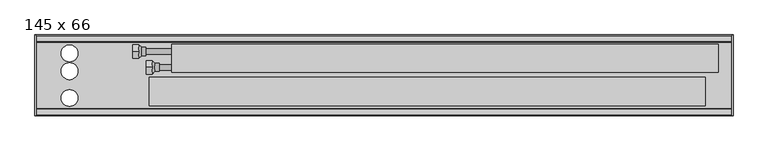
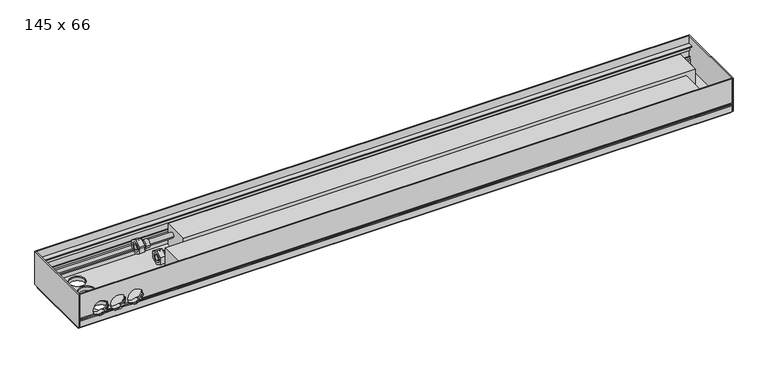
"""IFC4 building model written with IfcOpenShell, lengths in millimetres: proxy geometry, Mohlenhof_Внутрипольный конвектор_QSKM : 145 x 66."""

from ifc_helpers import new_model, si_unit, point, frame, frame_2d, origin, place, context, project, spatial, polyline, circle_curve, ellipse_curve, trimmed, segment, composite_curve, outline, extrude, source, transform, mapped, element, save
from ifc_brep_helpers import plane_surface, cylinder_surface, revolved_surface, advanced_brep


def proxy_145_x_66_0b6a45b0(model_context):
    return source(origin(), model_context, "Body", "SolidModel", [
        advanced_brep(
        [(-415.0, -158.0, -47.5), (-415.0, -146.0, -47.5), (-415.0, -170.0, -47.5), (-402.5, -165.5, -47.5), (-402.5, -150.5, -47.5), (-402.5, -158.0, -47.5), (-410.0, -165.5, -47.5), (-410.0, -150.5, -47.5)],
        [
            (0, 1),
            (1, 2, circle_curve(frame((-415.0, -158.0, -47.5), z_axis=(-1.0, 0.0, 0.0), x_axis=(0.0, 1.0, 0.0)), 12.0)),
            (2, 0),
            (2, 1, circle_curve(frame((-415.0, -158.0, -47.5), z_axis=(-1.0, 0.0, 0.0), x_axis=(0.0, 1.0, 0.0)), 12.0)),
            (3, 4, circle_curve(frame((-402.5, -158.0, -47.5), z_axis=(1.0, 0.0, 0.0), x_axis=(0.0, 1.0, 0.0)), 7.5)),
            (4, 5),
            (5, 3),
            (4, 3, circle_curve(frame((-402.5, -158.0, -47.5), z_axis=(1.0, 0.0, 0.0), x_axis=(0.0, 1.0, 0.0)), 7.5)),
            (6, 7, circle_curve(frame((-410.0, -158.0, -47.5), z_axis=(1.0, 0.0, 0.0), x_axis=(0.0, 1.0, 0.0)), 7.5)),
            (7, 4),
            (3, 6),
            (7, 6, circle_curve(frame((-410.0, -158.0, -47.5), z_axis=(1.0, 0.0, 0.0), x_axis=(0.0, 1.0, 0.0)), 7.5)),
            (1, 7),
            (6, 2),
        ],
        [
            plane_surface(frame((-415.0, -158.0, -47.5), z_axis=(-1.0, 0.0, 0.0), x_axis=(0.0, 1.0, 0.0))),
            plane_surface(frame((-402.5, -158.0, -47.5), z_axis=(1.0, 0.0, 0.0), x_axis=(0.0, 1.0, 0.0))),
            cylinder_surface(frame((-415.0, -158.0, -47.5), z_axis=(-1.0, 0.0, 0.0), x_axis=(0.0, 1.0, 0.0)), 7.5),
            revolved_surface(polyline([(-410.0, -150.5, -47.5), (-415.0, -146.0, -47.5)]), (-415.0, -158.0, -47.5), (-1.0, 0.0, 0.0)),
        ],
        [
            (0, [[1, 2, 3]]),
            (0, [[-3, 4, -1]]),
            (1, [[5, 6, 7]]),
            (1, [[8, -7, -6]]),
            (2, [[9, 10, -5, 11]]),
            (2, [[12, -11, -8, -10]]),
            (3, [[-2, 13, -9, 14]]),
            (3, [[-4, -14, -12, -13]]),
        ],
    ),
        extrude(outline(polyline([(-158.0, -33.6435935), (-146.0, -40.5717968), (-146.0, -54.4282032), (-158.0, -61.3564065), (-170.0, -54.4282032), (-170.0, -40.5717968), (-158.0, -33.6435935)]), holes=[composite_curve([segment(trimmed(circle_curve(frame_2d((-158.0, -47.5)), 8.5), [point((-149.5, -47.5))], [point((-166.5, -47.5))], True, "CARTESIAN"), True, "CONTINUOUS"), segment(trimmed(circle_curve(frame_2d((-158.0, -47.5)), 8.5), [point((-166.5, -47.5))], [point((-149.5, -47.5))], True, "CARTESIAN"), True, "CONTINUOUS")], self_intersect=False)]), frame((-426.0, 0.0, 0.0), z_axis=(1.0, 0.0, 0.0), x_axis=(0.0, 1.0, 0.0)), (0.0, 0.0, 1.0), 11.0),
        advanced_brep(
        [(-439.0, -130.0, -34.5), (-439.0, -118.0, -34.5), (-439.0, -142.0, -34.5), (-426.5, -137.5, -34.5), (-426.5, -122.5, -34.5), (-426.5, -130.0, -34.5), (-434.0, -137.5, -34.5), (-434.0, -122.5, -34.5)],
        [
            (0, 1),
            (1, 2, circle_curve(frame((-439.0, -130.0, -34.5), z_axis=(-1.0, 0.0, 0.0), x_axis=(0.0, 1.0, 0.0)), 12.0)),
            (2, 0),
            (2, 1, circle_curve(frame((-439.0, -130.0, -34.5), z_axis=(-1.0, 0.0, 0.0), x_axis=(0.0, 1.0, 0.0)), 12.0)),
            (3, 4, circle_curve(frame((-426.5, -130.0, -34.5), z_axis=(1.0, 0.0, 0.0), x_axis=(0.0, 1.0, 0.0)), 7.5)),
            (4, 5),
            (5, 3),
            (4, 3, circle_curve(frame((-426.5, -130.0, -34.5), z_axis=(1.0, 0.0, 0.0), x_axis=(0.0, 1.0, 0.0)), 7.5)),
            (6, 7, circle_curve(frame((-434.0, -130.0, -34.5), z_axis=(1.0, 0.0, 0.0), x_axis=(0.0, 1.0, 0.0)), 7.5)),
            (7, 4),
            (3, 6),
            (7, 6, circle_curve(frame((-434.0, -130.0, -34.5), z_axis=(1.0, 0.0, 0.0), x_axis=(0.0, 1.0, 0.0)), 7.5)),
            (1, 7),
            (6, 2),
        ],
        [
            plane_surface(frame((-439.0, -130.0, -34.5), z_axis=(-1.0, 0.0, 0.0), x_axis=(0.0, 1.0, 0.0))),
            plane_surface(frame((-426.5, -130.0, -34.5), z_axis=(1.0, 0.0, 0.0), x_axis=(0.0, 1.0, 0.0))),
            cylinder_surface(frame((-439.0, -130.0, -34.5), z_axis=(-1.0, 0.0, 0.0), x_axis=(0.0, 1.0, 0.0)), 7.5),
            revolved_surface(polyline([(-434.0, -122.5, -34.5), (-439.0, -118.0, -34.5)]), (-439.0, -130.0, -34.5), (-1.0, 0.0, 0.0)),
        ],
        [
            (0, [[1, 2, 3]]),
            (0, [[-3, 4, -1]]),
            (1, [[5, 6, 7]]),
            (1, [[8, -7, -6]]),
            (2, [[9, 10, -5, 11]]),
            (2, [[12, -11, -8, -10]]),
            (3, [[-2, 13, -9, 14]]),
            (3, [[-4, -14, -12, -13]]),
        ],
    ),
        extrude(outline(polyline([(-130.0, -20.6435935), (-118.0, -27.5717968), (-118.0, -41.4282032), (-130.0, -48.3564065), (-142.0, -41.4282032), (-142.0, -27.5717968), (-130.0, -20.6435935)]), holes=[composite_curve([segment(trimmed(circle_curve(frame_2d((-130.0, -34.5)), 8.5), [point((-121.5, -34.5))], [point((-138.5, -34.5))], True, "CARTESIAN"), True, "CONTINUOUS"), segment(trimmed(circle_curve(frame_2d((-130.0, -34.5)), 8.5), [point((-138.5, -34.5))], [point((-121.5, -34.5))], True, "CARTESIAN"), True, "CONTINUOUS")], self_intersect=False)]), frame((-450.0, 0.0, 0.0), z_axis=(1.0, 0.0, 0.0), x_axis=(0.0, 1.0, 0.0)), (0.0, 0.0, 1.0), 11.0),
        extrude(outline(composite_curve([segment(trimmed(circle_curve(frame_2d((-600.0, -223.5)), 4.5), [point((-604.5, -223.5))], [point((-595.5, -223.5))], False, "CARTESIAN"), True, "CONTINUOUS"), segment(trimmed(circle_curve(frame_2d((-600.0, -223.5)), 4.5), [point((-595.5, -223.5))], [point((-604.5, -223.5))], False, "CARTESIAN"), True, "CONTINUOUS")], self_intersect=False)), frame((0.0, 0.0, -79.0), z_axis=(0.0, 0.0, 1.0), x_axis=(1.0, 0.0, 0.0)), (0.0, 0.0, 1.0), 7.0),
        extrude(outline(composite_curve([segment(trimmed(circle_curve(frame_2d((-600.0, -223.5)), 4.0), [point((-604.0, -223.5))], [point((-596.0, -223.5))], False, "CARTESIAN"), True, "CONTINUOUS"), segment(trimmed(circle_curve(frame_2d((-600.0, -223.5)), 4.0), [point((-596.0, -223.5))], [point((-604.0, -223.5))], False, "CARTESIAN"), True, "CONTINUOUS")], self_intersect=False)), frame((0.0, 0.0, -72.0), z_axis=(0.0, 0.0, 1.0), x_axis=(1.0, 0.0, 0.0)), (0.0, 0.0, 1.0), 1.5),
        extrude(outline(composite_curve([segment(trimmed(circle_curve(frame_2d((-600.0, -121.5)), 4.5), [point((-604.5, -121.5))], [point((-595.5, -121.5))], False, "CARTESIAN"), True, "CONTINUOUS"), segment(trimmed(circle_curve(frame_2d((-600.0, -121.5)), 4.5), [point((-595.5, -121.5))], [point((-604.5, -121.5))], False, "CARTESIAN"), True, "CONTINUOUS")], self_intersect=False)), frame((0.0, 0.0, -79.0), z_axis=(0.0, 0.0, 1.0), x_axis=(1.0, 0.0, 0.0)), (0.0, 0.0, 1.0), 7.0),
        extrude(outline(composite_curve([segment(trimmed(circle_curve(frame_2d((-600.0, -121.5)), 4.0), [point((-604.0, -121.5))], [point((-596.0, -121.5))], False, "CARTESIAN"), True, "CONTINUOUS"), segment(trimmed(circle_curve(frame_2d((-600.0, -121.5)), 4.0), [point((-596.0, -121.5))], [point((-604.0, -121.5))], False, "CARTESIAN"), True, "CONTINUOUS")], self_intersect=False)), frame((0.0, 0.0, -72.0), z_axis=(0.0, 0.0, 1.0), x_axis=(1.0, 0.0, 0.0)), (0.0, 0.0, 1.0), 1.5),
        extrude(outline(composite_curve([segment(trimmed(circle_curve(frame_2d((600.0, -223.5)), 4.5), [point((595.5, -223.5))], [point((604.5, -223.5))], False, "CARTESIAN"), True, "CONTINUOUS"), segment(trimmed(circle_curve(frame_2d((600.0, -223.5)), 4.5), [point((604.5, -223.5))], [point((595.5, -223.5))], False, "CARTESIAN"), True, "CONTINUOUS")], self_intersect=False)), frame((0.0, 0.0, -79.0), z_axis=(0.0, 0.0, 1.0), x_axis=(1.0, 0.0, 0.0)), (0.0, 0.0, 1.0), 7.0),
        extrude(outline(composite_curve([segment(trimmed(circle_curve(frame_2d((600.0, -223.5)), 4.0), [point((596.0, -223.5))], [point((604.0, -223.5))], False, "CARTESIAN"), True, "CONTINUOUS"), segment(trimmed(circle_curve(frame_2d((600.0, -223.5)), 4.0), [point((604.0, -223.5))], [point((596.0, -223.5))], False, "CARTESIAN"), True, "CONTINUOUS")], self_intersect=False)), frame((0.0, 0.0, -72.0), z_axis=(0.0, 0.0, 1.0), x_axis=(1.0, 0.0, 0.0)), (0.0, 0.0, 1.0), 1.5),
        extrude(outline(composite_curve([segment(trimmed(circle_curve(frame_2d((600.0, -121.5)), 4.5), [point((595.5, -121.5))], [point((604.5, -121.5))], False, "CARTESIAN"), True, "CONTINUOUS"), segment(trimmed(circle_curve(frame_2d((600.0, -121.5)), 4.5), [point((604.5, -121.5))], [point((595.5, -121.5))], False, "CARTESIAN"), True, "CONTINUOUS")], self_intersect=False)), frame((0.0, 0.0, -79.0), z_axis=(0.0, 0.0, 1.0), x_axis=(1.0, 0.0, 0.0)), (0.0, 0.0, 1.0), 7.0),
        extrude(outline(composite_curve([segment(trimmed(circle_curve(frame_2d((600.0, -121.5)), 4.0), [point((596.0, -121.5))], [point((604.0, -121.5))], False, "CARTESIAN"), True, "CONTINUOUS"), segment(trimmed(circle_curve(frame_2d((600.0, -121.5)), 4.0), [point((604.0, -121.5))], [point((596.0, -121.5))], False, "CARTESIAN"), True, "CONTINUOUS")], self_intersect=False)), frame((0.0, 0.0, -72.0), z_axis=(0.0, 0.0, 1.0), x_axis=(1.0, 0.0, 0.0)), (0.0, 0.0, 1.0), 1.5),
        extrude(outline(polyline([(575.0, -175.87), (575.0, -227.18), (-420.0, -227.18), (-420.0, -175.87), (575.0, -175.87)])), frame((0.0, 0.0, -62.5), z_axis=(0.0, 0.0, 1.0), x_axis=(1.0, 0.0, 0.0)), (0.0, 0.0, 1.0), 43.62),
        extrude(outline(composite_curve([segment(trimmed(circle_curve(frame_2d((-158.0, -47.5)), 5.0), [point((-163.0, -47.5))], [point((-153.0, -47.5))], False, "CARTESIAN"), True, "CONTINUOUS"), segment(trimmed(circle_curve(frame_2d((-158.0, -47.5)), 5.0), [point((-153.0, -47.5))], [point((-163.0, -47.5))], False, "CARTESIAN"), True, "CONTINUOUS")], self_intersect=False)), frame((-426.0, 0.0, 0.0), z_axis=(1.0, 0.0, 0.0), x_axis=(0.0, 1.0, 0.0)), (0.0, 0.0, 1.0), 46.0),
        extrude(outline(composite_curve([segment(trimmed(circle_curve(frame_2d((-130.0, -34.5)), 5.0), [point((-135.0, -34.5))], [point((-125.0, -34.5))], False, "CARTESIAN"), True, "CONTINUOUS"), segment(trimmed(circle_curve(frame_2d((-130.0, -34.5)), 5.0), [point((-125.0, -34.5))], [point((-135.0, -34.5))], False, "CARTESIAN"), True, "CONTINUOUS")], self_intersect=False)), frame((-450.0, 0.0, 0.0), z_axis=(1.0, 0.0, 0.0), x_axis=(0.0, 1.0, 0.0)), (0.0, 0.0, 1.0), 70.0),
        advanced_brep(
        [(623.0, -245.0, -48.5473602), (623.0, -243.5, -49.2468216), (623.0, -242.5, -49.2468216), (623.0, -242.5, -46.0008038), (623.0, -240.0, -46.0008038), (623.0, -240.0, -56.5008038), (623.0, -242.5, -56.5008038), (623.0, -242.5, -53.2468216), (623.0, -243.5, -53.2468216), (623.0, -245.0, -53.9462831), (623.0, -245.0, -66.5), (623.0, -241.0, -66.5), (623.0, -241.0, -65.2), (623.0, -243.0, -65.2), (623.0, -243.0, -62.5), (623.0, -232.0, -62.5), (623.0, -232.0, -54.9172677), (623.0, -233.4172677, -53.5), (623.0, -237.0, -53.5), (623.0, -237.0, -45.91), (623.0, -239.0, -43.91), (623.0, -239.0, -39.5), (623.0, -240.0, -39.5), (623.0, -240.0, -43.5), (623.0, -242.4956439, -43.5), (623.0, -242.4956439, -23.0), (623.0, -240.0, -23.0), (623.0, -240.0, -27.0), (623.0, -239.0, -27.0), (623.0, -239.0, -17.0), (623.0, -233.3956439, -17.0), (623.0, -233.3956439, -15.0), (623.0, -243.4, -15.0), (623.0, -243.4, 0.0), (623.0, -245.0, 0.0), (-623.0, -245.0, -48.5473602), (-623.0, -245.0, 0.0), (-623.0, -243.4, 0.0), (-623.0, -243.4, -15.0), (-623.0, -233.3956439, -15.0), (-623.0, -233.3956439, -17.0), (-623.0, -239.0, -17.0), (-623.0, -239.0, -27.0), (-623.0, -240.0, -27.0), (-623.0, -240.0, -23.0), (-623.0, -242.4956439, -23.0), (-623.0, -242.4956439, -43.5), (-623.0, -240.0, -43.5), (-623.0, -240.0, -39.5), (-623.0, -239.0, -39.5), (-623.0, -239.0, -43.91), (-623.0, -237.0, -45.91), (-623.0, -237.0, -53.5), (-623.0, -233.4172677, -53.5), (-623.0, -232.0, -54.9172677), (-623.0, -232.0, -62.5), (-623.0, -243.0, -62.5), (-623.0, -243.0, -65.2), (-623.0, -241.0, -65.2), (-623.0, -241.0, -66.5), (-623.0, -245.0, -66.5), (-623.0, -245.0, -53.9462831), (-623.0, -243.5, -53.2468216), (-623.0, -242.5, -53.2468216), (-623.0, -242.5, -56.5008038), (-623.0, -240.0, -56.5008038), (-623.0, -240.0, -46.0008038), (-623.0, -242.5, -46.0008038), (-623.0, -242.5, -49.2468216), (-623.0, -243.5, -49.2468216), (-503.7585985, -245.0, -48.5473602), (-504.155283, -243.5, -49.2468216), (-595.844717, -243.5, -49.2468216), (-596.2414015, -245.0, -48.5473602), (-563.2414015, -245.0, -48.5473602), (-569.7585985, -245.0, -48.5473602), (-570.155283, -243.5, -49.2468216), (-562.844717, -243.5, -49.2468216), (-530.2414015, -245.0, -48.5473602), (-536.7585985, -245.0, -48.5473602), (-537.155283, -243.5, -49.2468216), (-529.844717, -243.5, -49.2468216), (-504.155283, -242.5, -49.2468216), (-595.844717, -242.5, -49.2468216), (-570.155283, -242.5, -49.2468216), (-562.844717, -242.5, -49.2468216), (-537.155283, -242.5, -49.2468216), (-529.844717, -242.5, -49.2468216), (-502.6911648, -242.5, -46.0008038), (-597.3088352, -242.5, -46.0008038), (-568.6911648, -242.5, -46.0008038), (-564.3088352, -242.5, -46.0008038), (-535.6911648, -242.5, -46.0008038), (-531.3088352, -242.5, -46.0008038), (-502.6911648, -240.0, -46.0008038), (-597.3088352, -240.0, -46.0008038), (-568.6911648, -240.0, -46.0008038), (-564.3088352, -240.0, -46.0008038), (-535.6911648, -240.0, -46.0008038), (-531.3088352, -240.0, -46.0008038), (-592.328032, -242.5, -53.2468216), (-573.671968, -242.5, -53.2468216), (-559.328032, -242.5, -53.2468216), (-540.671968, -242.5, -53.2468216), (-526.328032, -242.5, -53.2468216), (-507.671968, -242.5, -53.2468216), (-507.671968, -243.5, -53.2468216), (-592.328032, -243.5, -53.2468216), (-573.671968, -243.5, -53.2468216), (-559.328032, -243.5, -53.2468216), (-540.671968, -243.5, -53.2468216), (-526.328032, -243.5, -53.2468216), (-508.6280208, -245.0, -53.9462831), (-591.3719792, -245.0, -53.9462831), (-574.6280208, -245.0, -53.9462831), (-558.3719792, -245.0, -53.9462831), (-541.6280208, -245.0, -53.9462831), (-525.3719792, -245.0, -53.9462831), (-589.7064841, -232.0, -54.9172677), (-576.2935159, -232.0, -54.9172677), (-556.7064841, -232.0, -54.9172677), (-543.2935159, -232.0, -54.9172677), (-523.7064841, -232.0, -54.9172677), (-510.2935159, -232.0, -54.9172677), (-508.0, -233.4172677, -53.5), (-592.0, -233.4172677, -53.5), (-574.0, -233.4172677, -53.5), (-559.0, -233.4172677, -53.5), (-541.0, -233.4172677, -53.5), (-526.0, -233.4172677, -53.5), (-508.0, -237.0, -53.5), (-592.0, -237.0, -53.5), (-574.0, -237.0, -53.5), (-559.0, -237.0, -53.5), (-541.0, -237.0, -53.5), (-526.0, -237.0, -53.5), (-502.6629187, -237.0, -45.91), (-597.3370813, -237.0, -45.91), (-568.6629187, -237.0, -45.91), (-564.3370813, -237.0, -45.91), (-535.6629187, -237.0, -45.91), (-531.3370813, -237.0, -45.91), (-502.1948691, -239.0, -43.91), (-597.8051309, -239.0, -43.91), (-568.1948691, -239.0, -43.91), (-564.8051309, -239.0, -43.91), (-535.1948691, -239.0, -43.91), (-531.8051309, -239.0, -43.91), (-502.0, -239.0, -41.5), (-502.1339313, -239.0, -39.5), (-597.8660687, -239.0, -39.5), (-598.0, -239.0, -41.5), (-568.0, -239.0, -41.5), (-568.1339313, -239.0, -39.5), (-564.8660687, -239.0, -39.5), (-565.0, -239.0, -41.5), (-535.0, -239.0, -41.5), (-535.1339313, -239.0, -39.5), (-531.8660687, -239.0, -39.5), (-532.0, -239.0, -41.5), (-502.1339313, -240.0, -39.5), (-597.8660687, -240.0, -39.5), (-568.1339313, -240.0, -39.5), (-564.8660687, -240.0, -39.5), (-535.1339313, -240.0, -39.5), (-531.8660687, -240.0, -39.5), (-502.0, -240.0, -41.5), (-502.1339313, -240.0, -43.5), (-597.8660687, -240.0, -43.5), (-598.0, -240.0, -41.5), (-568.0, -240.0, -41.5), (-568.1339313, -240.0, -43.5), (-564.8660687, -240.0, -43.5), (-565.0, -240.0, -41.5), (-535.0, -240.0, -41.5), (-535.1339313, -240.0, -43.5), (-531.8660687, -240.0, -43.5), (-532.0, -240.0, -41.5), (-502.1339313, -242.4956439, -43.5), (-597.8660687, -242.4956439, -43.5), (-568.1339313, -242.4956439, -43.5), (-564.8660687, -242.4956439, -43.5), (-535.1339313, -242.4956439, -43.5), (-531.8660687, -242.4956439, -43.5), (-502.0, -242.4956439, -41.5), (-532.0, -242.4956439, -41.5), (-535.0, -242.4956439, -41.5), (-565.0, -242.4956439, -41.5), (-568.0, -242.4956439, -41.5), (-598.0, -242.4956439, -41.5), (-586.8405729, -240.0, -27.0), (-579.1594271, -240.0, -27.0), (-553.8405729, -240.0, -27.0), (-546.1594271, -240.0, -27.0), (-520.8405729, -240.0, -27.0), (-513.1594271, -240.0, -27.0), (-513.1594271, -239.0, -27.0), (-586.8405729, -239.0, -27.0), (-579.1594271, -239.0, -27.0), (-553.8405729, -239.0, -27.0), (-546.1594271, -239.0, -27.0), (-520.8405729, -239.0, -27.0), (-598.0, -245.0, -41.5), (-568.0, -245.0, -41.5), (-565.0, -245.0, -41.5), (-535.0, -245.0, -41.5), (-532.0, -245.0, -41.5), (-502.0, -245.0, -41.5)],
        [
            (0, 1),
            (1, 2),
            (2, 3),
            (3, 4),
            (4, 5),
            (5, 6),
            (6, 7),
            (7, 8),
            (8, 9),
            (9, 10),
            (10, 11),
            (11, 12),
            (12, 13),
            (13, 14),
            (14, 15),
            (15, 16),
            (16, 17),
            (17, 18),
            (18, 19),
            (19, 20),
            (20, 21),
            (21, 22),
            (22, 23),
            (23, 24),
            (24, 25),
            (25, 26),
            (26, 27),
            (27, 28),
            (28, 29),
            (29, 30),
            (30, 31),
            (31, 32),
            (32, 33),
            (33, 34),
            (34, 0),
            (35, 36),
            (36, 37),
            (37, 38),
            (38, 39),
            (39, 40),
            (40, 41),
            (41, 42),
            (42, 43),
            (43, 44),
            (44, 45),
            (45, 46),
            (46, 47),
            (47, 48),
            (48, 49),
            (49, 50),
            (50, 51),
            (51, 52),
            (52, 53),
            (53, 54),
            (54, 55),
            (55, 56),
            (56, 57),
            (57, 58),
            (58, 59),
            (59, 60),
            (60, 61),
            (61, 62),
            (62, 63),
            (63, 64),
            (64, 65),
            (65, 66),
            (66, 67),
            (67, 68),
            (68, 69),
            (69, 35),
            (0, 70),
            (70, 71, ellipse_curve(frame((-517.0, -260.1131126, -41.5), z_axis=(0.0, 0.42261826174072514, 0.9063077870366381), x_axis=(0.0, -0.9063077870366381, 0.42261826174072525)), 35.4930237, 15.0)),
            (71, 1),
            (69, 72),
            (72, 73, ellipse_curve(frame((-583.0, -260.1131126, -41.5), z_axis=(0.0, 0.42261826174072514, 0.9063077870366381), x_axis=(0.0, -0.9063077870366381, 0.42261826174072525)), 35.4930237, 15.0)),
            (73, 35),
            (74, 75),
            (75, 76, ellipse_curve(frame((-583.0, -260.1131126, -41.5), z_axis=(0.0, 0.42261826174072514, 0.9063077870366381), x_axis=(0.0, -0.9063077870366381, 0.42261826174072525)), 35.4930237, 15.0)),
            (76, 77),
            (77, 74, ellipse_curve(frame((-550.0, -260.1131126, -41.5), z_axis=(0.0, 0.42261826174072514, 0.9063077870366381), x_axis=(0.0, -0.9063077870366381, 0.42261826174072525)), 35.4930237, 15.0)),
            (78, 79),
            (79, 80, ellipse_curve(frame((-550.0, -260.1131126, -41.5), z_axis=(0.0, 0.42261826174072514, 0.9063077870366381), x_axis=(0.0, -0.9063077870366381, 0.42261826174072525)), 35.4930237, 15.0)),
            (80, 81),
            (81, 78, ellipse_curve(frame((-517.0, -260.1131126, -41.5), z_axis=(0.0, 0.42261826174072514, 0.9063077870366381), x_axis=(0.0, -0.9063077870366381, 0.42261826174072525)), 35.4930237, 15.0)),
            (71, 82),
            (82, 2),
            (68, 83),
            (83, 72),
            (76, 84),
            (84, 85),
            (85, 77),
            (80, 86),
            (86, 87),
            (87, 81),
            (82, 88, circle_curve(frame((-517.0, -242.5, -41.5), z_axis=(0.0, -1.0, 0.0), x_axis=(1.0, 0.0, 0.0)), 15.0)),
            (88, 3),
            (67, 89),
            (89, 83, circle_curve(frame((-583.0, -242.5, -41.5), z_axis=(0.0, -1.0, 0.0), x_axis=(1.0, 0.0, 0.0)), 15.0)),
            (84, 90, circle_curve(frame((-583.0, -242.5, -41.5), z_axis=(0.0, -1.0, 0.0), x_axis=(1.0, 0.0, 0.0)), 15.0)),
            (90, 91),
            (91, 85, circle_curve(frame((-550.0, -242.5, -41.5), z_axis=(0.0, -1.0, 0.0), x_axis=(1.0, 0.0, 0.0)), 15.0)),
            (86, 92, circle_curve(frame((-550.0, -242.5, -41.5), z_axis=(0.0, -1.0, 0.0), x_axis=(1.0, 0.0, 0.0)), 15.0)),
            (92, 93),
            (93, 87, circle_curve(frame((-517.0, -242.5, -41.5), z_axis=(0.0, -1.0, 0.0), x_axis=(1.0, 0.0, 0.0)), 15.0)),
            (88, 94),
            (94, 4),
            (66, 95),
            (95, 89),
            (90, 96),
            (96, 97),
            (97, 91),
            (92, 98),
            (98, 99),
            (99, 93),
            (94, 99, circle_curve(frame((-517.0, -240.0, -41.5), z_axis=(0.0, 1.0, 0.0), x_axis=(1.0, 0.0, 0.0)), 15.0)),
            (98, 97, circle_curve(frame((-550.0, -240.0, -41.5), z_axis=(0.0, 1.0, 0.0), x_axis=(1.0, 0.0, 0.0)), 15.0)),
            (96, 95, circle_curve(frame((-583.0, -240.0, -41.5), z_axis=(0.0, 1.0, 0.0), x_axis=(1.0, 0.0, 0.0)), 15.0)),
            (65, 5),
            (64, 6),
            (63, 100),
            (100, 101, circle_curve(frame((-583.0, -242.5, -41.5), z_axis=(0.0, -1.0, 0.0), x_axis=(1.0, 0.0, 0.0)), 15.0)),
            (101, 102),
            (102, 103, circle_curve(frame((-550.0, -242.5, -41.5), z_axis=(0.0, -1.0, 0.0), x_axis=(1.0, 0.0, 0.0)), 15.0)),
            (103, 104),
            (104, 105, circle_curve(frame((-517.0, -242.5, -41.5), z_axis=(0.0, -1.0, 0.0), x_axis=(1.0, 0.0, 0.0)), 15.0)),
            (105, 7),
            (105, 106),
            (106, 8),
            (62, 107),
            (107, 100),
            (101, 108),
            (108, 109),
            (109, 102),
            (103, 110),
            (110, 111),
            (111, 104),
            (106, 112, ellipse_curve(frame((-517.0, -218.3088597, -41.5), z_axis=(0.0, 0.42261826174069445, -0.9063077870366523), x_axis=(0.0, -0.9063077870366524, -0.42261826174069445)), 35.4930237, 15.0)),
            (112, 9),
            (61, 113),
            (113, 107, ellipse_curve(frame((-583.0, -218.3088597, -41.5), z_axis=(0.0, 0.42261826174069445, -0.9063077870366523), x_axis=(0.0, -0.9063077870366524, -0.42261826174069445)), 35.4930237, 15.0)),
            (108, 114, ellipse_curve(frame((-583.0, -218.3088597, -41.5), z_axis=(0.0, 0.42261826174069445, -0.9063077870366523), x_axis=(0.0, -0.9063077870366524, -0.42261826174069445)), 35.4930237, 15.0)),
            (114, 115),
            (115, 109, ellipse_curve(frame((-550.0, -218.3088597, -41.5), z_axis=(0.0, 0.42261826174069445, -0.9063077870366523), x_axis=(0.0, -0.9063077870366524, -0.42261826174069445)), 35.4930237, 15.0)),
            (110, 116, ellipse_curve(frame((-550.0, -218.3088597, -41.5), z_axis=(0.0, 0.42261826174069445, -0.9063077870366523), x_axis=(0.0, -0.9063077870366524, -0.42261826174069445)), 35.4930237, 15.0)),
            (116, 117),
            (117, 111, ellipse_curve(frame((-517.0, -218.3088597, -41.5), z_axis=(0.0, 0.42261826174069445, -0.9063077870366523), x_axis=(0.0, -0.9063077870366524, -0.42261826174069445)), 35.4930237, 15.0)),
            (112, 117, circle_curve(frame((-517.0, -245.0, -41.5), z_axis=(0.0, 1.0, 0.0), x_axis=(1.0, 0.0, 0.0)), 15.0)),
            (116, 115, circle_curve(frame((-550.0, -245.0, -41.5), z_axis=(0.0, 1.0, 0.0), x_axis=(1.0, 0.0, 0.0)), 15.0)),
            (114, 113, circle_curve(frame((-583.0, -245.0, -41.5), z_axis=(0.0, 1.0, 0.0), x_axis=(1.0, 0.0, 0.0)), 15.0)),
            (60, 10),
            (59, 11),
            (58, 12),
            (57, 13),
            (56, 14),
            (55, 15),
            (54, 118),
            (118, 119, circle_curve(frame((-583.0, -232.0, -41.5), z_axis=(0.0, -1.0, 0.0), x_axis=(1.0, 0.0, 0.0)), 15.0)),
            (119, 120),
            (120, 121, circle_curve(frame((-550.0, -232.0, -41.5), z_axis=(0.0, -1.0, 0.0), x_axis=(1.0, 0.0, 0.0)), 15.0)),
            (121, 122),
            (122, 123, circle_curve(frame((-517.0, -232.0, -41.5), z_axis=(0.0, -1.0, 0.0), x_axis=(1.0, 0.0, 0.0)), 15.0)),
            (123, 16),
            (123, 124, ellipse_curve(frame((-517.0, -245.4172677, -41.5), z_axis=(0.0, -0.7071067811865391, -0.707106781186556), x_axis=(0.0, -0.7071067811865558, 0.7071067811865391)), 21.2132034, 15.0)),
            (124, 17),
            (53, 125),
            (125, 118, ellipse_curve(frame((-583.0, -245.4172677, -41.5), z_axis=(0.0, -0.7071067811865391, -0.707106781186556), x_axis=(0.0, -0.7071067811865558, 0.7071067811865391)), 21.2132034, 15.0)),
            (119, 126, ellipse_curve(frame((-583.0, -245.4172677, -41.5), z_axis=(0.0, -0.7071067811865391, -0.707106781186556), x_axis=(0.0, -0.7071067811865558, 0.7071067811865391)), 21.2132034, 15.0)),
            (126, 127),
            (127, 120, ellipse_curve(frame((-550.0, -245.4172677, -41.5), z_axis=(0.0, -0.7071067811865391, -0.707106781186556), x_axis=(0.0, -0.7071067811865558, 0.7071067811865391)), 21.2132034, 15.0)),
            (121, 128, ellipse_curve(frame((-550.0, -245.4172677, -41.5), z_axis=(0.0, -0.7071067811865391, -0.707106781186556), x_axis=(0.0, -0.7071067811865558, 0.7071067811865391)), 21.2132034, 15.0)),
            (128, 129),
            (129, 122, ellipse_curve(frame((-517.0, -245.4172677, -41.5), z_axis=(0.0, -0.7071067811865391, -0.707106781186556), x_axis=(0.0, -0.7071067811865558, 0.7071067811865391)), 21.2132034, 15.0)),
            (124, 130),
            (130, 18),
            (52, 131),
            (131, 125),
            (126, 132),
            (132, 133),
            (133, 127),
            (128, 134),
            (134, 135),
            (135, 129),
            (130, 136, circle_curve(frame((-517.0, -237.0, -41.5), z_axis=(0.0, -1.0, 0.0), x_axis=(1.0, 0.0, 0.0)), 15.0)),
            (136, 19),
            (51, 137),
            (137, 131, circle_curve(frame((-583.0, -237.0, -41.5), z_axis=(0.0, -1.0, 0.0), x_axis=(1.0, 0.0, 0.0)), 15.0)),
            (132, 138, circle_curve(frame((-583.0, -237.0, -41.5), z_axis=(0.0, -1.0, 0.0), x_axis=(1.0, 0.0, 0.0)), 15.0)),
            (138, 139),
            (139, 133, circle_curve(frame((-550.0, -237.0, -41.5), z_axis=(0.0, -1.0, 0.0), x_axis=(1.0, 0.0, 0.0)), 15.0)),
            (134, 140, circle_curve(frame((-550.0, -237.0, -41.5), z_axis=(0.0, -1.0, 0.0), x_axis=(1.0, 0.0, 0.0)), 15.0)),
            (140, 141),
            (141, 135, circle_curve(frame((-517.0, -237.0, -41.5), z_axis=(0.0, -1.0, 0.0), x_axis=(1.0, 0.0, 0.0)), 15.0)),
            (136, 142, ellipse_curve(frame((-517.0, -241.41, -41.5), z_axis=(0.0, -0.7071067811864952, -0.7071067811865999), x_axis=(0.0, -0.7071067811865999, 0.7071067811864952)), 21.2132034, 15.0)),
            (142, 20),
            (50, 143),
            (143, 137, ellipse_curve(frame((-583.0, -241.41, -41.5), z_axis=(0.0, -0.7071067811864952, -0.7071067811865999), x_axis=(0.0, -0.7071067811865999, 0.7071067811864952)), 21.2132034, 15.0)),
            (138, 144, ellipse_curve(frame((-583.0, -241.41, -41.5), z_axis=(0.0, -0.7071067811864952, -0.7071067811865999), x_axis=(0.0, -0.7071067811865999, 0.7071067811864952)), 21.2132034, 15.0)),
            (144, 145),
            (145, 139, ellipse_curve(frame((-550.0, -241.41, -41.5), z_axis=(0.0, -0.7071067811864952, -0.7071067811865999), x_axis=(0.0, -0.7071067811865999, 0.7071067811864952)), 21.2132034, 15.0)),
            (140, 146, ellipse_curve(frame((-550.0, -241.41, -41.5), z_axis=(0.0, -0.7071067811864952, -0.7071067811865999), x_axis=(0.0, -0.7071067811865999, 0.7071067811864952)), 21.2132034, 15.0)),
            (146, 147),
            (147, 141, ellipse_curve(frame((-517.0, -241.41, -41.5), z_axis=(0.0, -0.7071067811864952, -0.7071067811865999), x_axis=(0.0, -0.7071067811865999, 0.7071067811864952)), 21.2132034, 15.0)),
            (142, 148, circle_curve(frame((-517.0, -239.0, -41.5), z_axis=(0.0, -1.0, 0.0), x_axis=(1.0, 0.0, 0.0)), 15.0)),
            (148, 149, circle_curve(frame((-517.0, -239.0, -41.5), z_axis=(0.0, -1.0, 0.0), x_axis=(1.0, 0.0, 0.0)), 15.0)),
            (149, 21),
            (49, 150),
            (150, 151, circle_curve(frame((-583.0, -239.0, -41.5), z_axis=(0.0, -1.0, 0.0), x_axis=(1.0, 0.0, 0.0)), 15.0)),
            (151, 143, circle_curve(frame((-583.0, -239.0, -41.5), z_axis=(0.0, -1.0, 0.0), x_axis=(1.0, 0.0, 0.0)), 15.0)),
            (144, 152, circle_curve(frame((-583.0, -239.0, -41.5), z_axis=(0.0, -1.0, 0.0), x_axis=(1.0, 0.0, 0.0)), 15.0)),
            (152, 153, circle_curve(frame((-583.0, -239.0, -41.5), z_axis=(0.0, -1.0, 0.0), x_axis=(1.0, 0.0, 0.0)), 15.0)),
            (153, 154),
            (154, 155, circle_curve(frame((-550.0, -239.0, -41.5), z_axis=(0.0, -1.0, 0.0), x_axis=(1.0, 0.0, 0.0)), 15.0)),
            (155, 145, circle_curve(frame((-550.0, -239.0, -41.5), z_axis=(0.0, -1.0, 0.0), x_axis=(1.0, 0.0, 0.0)), 15.0)),
            (146, 156, circle_curve(frame((-550.0, -239.0, -41.5), z_axis=(0.0, -1.0, 0.0), x_axis=(1.0, 0.0, 0.0)), 15.0)),
            (156, 157, circle_curve(frame((-550.0, -239.0, -41.5), z_axis=(0.0, -1.0, 0.0), x_axis=(1.0, 0.0, 0.0)), 15.0)),
            (157, 158),
            (158, 159, circle_curve(frame((-517.0, -239.0, -41.5), z_axis=(0.0, -1.0, 0.0), x_axis=(1.0, 0.0, 0.0)), 15.0)),
            (159, 147, circle_curve(frame((-517.0, -239.0, -41.5), z_axis=(0.0, -1.0, 0.0), x_axis=(1.0, 0.0, 0.0)), 15.0)),
            (149, 160),
            (160, 22),
            (48, 161),
            (161, 150),
            (153, 162),
            (162, 163),
            (163, 154),
            (157, 164),
            (164, 165),
            (165, 158),
            (160, 166, circle_curve(frame((-517.0, -240.0, -41.5), z_axis=(0.0, 1.0, 0.0), x_axis=(1.0, 0.0, 0.0)), 15.0)),
            (166, 167, circle_curve(frame((-517.0, -240.0, -41.5), z_axis=(0.0, 1.0, 0.0), x_axis=(1.0, 0.0, 0.0)), 15.0)),
            (167, 23),
            (47, 168),
            (168, 169, circle_curve(frame((-583.0, -240.0, -41.5), z_axis=(0.0, 1.0, 0.0), x_axis=(1.0, 0.0, 0.0)), 15.0)),
            (169, 161, circle_curve(frame((-583.0, -240.0, -41.5), z_axis=(0.0, 1.0, 0.0), x_axis=(1.0, 0.0, 0.0)), 15.0)),
            (162, 170, circle_curve(frame((-583.0, -240.0, -41.5), z_axis=(0.0, 1.0, 0.0), x_axis=(1.0, 0.0, 0.0)), 15.0)),
            (170, 171, circle_curve(frame((-583.0, -240.0, -41.5), z_axis=(0.0, 1.0, 0.0), x_axis=(1.0, 0.0, 0.0)), 15.0)),
            (171, 172),
            (172, 173, circle_curve(frame((-550.0, -240.0, -41.5), z_axis=(0.0, 1.0, 0.0), x_axis=(1.0, 0.0, 0.0)), 15.0)),
            (173, 163, circle_curve(frame((-550.0, -240.0, -41.5), z_axis=(0.0, 1.0, 0.0), x_axis=(1.0, 0.0, 0.0)), 15.0)),
            (164, 174, circle_curve(frame((-550.0, -240.0, -41.5), z_axis=(0.0, 1.0, 0.0), x_axis=(1.0, 0.0, 0.0)), 15.0)),
            (174, 175, circle_curve(frame((-550.0, -240.0, -41.5), z_axis=(0.0, 1.0, 0.0), x_axis=(1.0, 0.0, 0.0)), 15.0)),
            (175, 176),
            (176, 177, circle_curve(frame((-517.0, -240.0, -41.5), z_axis=(0.0, 1.0, 0.0), x_axis=(1.0, 0.0, 0.0)), 15.0)),
            (177, 165, circle_curve(frame((-517.0, -240.0, -41.5), z_axis=(0.0, 1.0, 0.0), x_axis=(1.0, 0.0, 0.0)), 15.0)),
            (167, 178),
            (178, 24),
            (46, 179),
            (179, 168),
            (171, 180),
            (180, 181),
            (181, 172),
            (175, 182),
            (182, 183),
            (183, 176),
            (178, 184, circle_curve(frame((-517.0, -242.4956439, -41.5), z_axis=(0.0, -1.0, 0.0), x_axis=(1.0, 0.0, 0.0)), 15.0)),
            (184, 185, circle_curve(frame((-517.0, -242.4956439, -41.5), z_axis=(0.0, -1.0, 0.0), x_axis=(1.0, 0.0, 0.0)), 15.0)),
            (185, 183, circle_curve(frame((-517.0, -242.4956439, -41.5), z_axis=(0.0, -1.0, 0.0), x_axis=(1.0, 0.0, 0.0)), 15.0)),
            (182, 186, circle_curve(frame((-550.0, -242.4956439, -41.5), z_axis=(0.0, -1.0, 0.0), x_axis=(1.0, 0.0, 0.0)), 15.0)),
            (186, 187, circle_curve(frame((-550.0, -242.4956439, -41.5), z_axis=(0.0, -1.0, 0.0), x_axis=(1.0, 0.0, 0.0)), 15.0)),
            (187, 181, circle_curve(frame((-550.0, -242.4956439, -41.5), z_axis=(0.0, -1.0, 0.0), x_axis=(1.0, 0.0, 0.0)), 15.0)),
            (180, 188, circle_curve(frame((-583.0, -242.4956439, -41.5), z_axis=(0.0, -1.0, 0.0), x_axis=(1.0, 0.0, 0.0)), 15.0)),
            (188, 189, circle_curve(frame((-583.0, -242.4956439, -41.5), z_axis=(0.0, -1.0, 0.0), x_axis=(1.0, 0.0, 0.0)), 15.0)),
            (189, 179, circle_curve(frame((-583.0, -242.4956439, -41.5), z_axis=(0.0, -1.0, 0.0), x_axis=(1.0, 0.0, 0.0)), 15.0)),
            (45, 25),
            (44, 26),
            (43, 190),
            (190, 191, circle_curve(frame((-583.0, -240.0, -41.5), z_axis=(0.0, 1.0, 0.0), x_axis=(1.0, 0.0, 0.0)), 15.0)),
            (191, 192),
            (192, 193, circle_curve(frame((-550.0, -240.0, -41.5), z_axis=(0.0, 1.0, 0.0), x_axis=(1.0, 0.0, 0.0)), 15.0)),
            (193, 194),
            (194, 195, circle_curve(frame((-517.0, -240.0, -41.5), z_axis=(0.0, 1.0, 0.0), x_axis=(1.0, 0.0, 0.0)), 15.0)),
            (195, 27),
            (195, 196),
            (196, 28),
            (42, 197),
            (197, 190),
            (191, 198),
            (198, 199),
            (199, 192),
            (193, 200),
            (200, 201),
            (201, 194),
            (196, 201, circle_curve(frame((-517.0, -239.0, -41.5), z_axis=(0.0, -1.0, 0.0), x_axis=(1.0, 0.0, 0.0)), 15.0)),
            (200, 199, circle_curve(frame((-550.0, -239.0, -41.5), z_axis=(0.0, -1.0, 0.0), x_axis=(1.0, 0.0, 0.0)), 15.0)),
            (198, 197, circle_curve(frame((-583.0, -239.0, -41.5), z_axis=(0.0, -1.0, 0.0), x_axis=(1.0, 0.0, 0.0)), 15.0)),
            (41, 29),
            (40, 30),
            (39, 31),
            (38, 32),
            (37, 33),
            (36, 34),
            (73, 202, circle_curve(frame((-583.0, -245.0, -41.5), z_axis=(0.0, 1.0, 0.0), x_axis=(1.0, 0.0, 0.0)), 15.0)),
            (202, 203, circle_curve(frame((-583.0, -245.0, -41.5), z_axis=(0.0, 1.0, 0.0), x_axis=(1.0, 0.0, 0.0)), 15.0)),
            (203, 75, circle_curve(frame((-583.0, -245.0, -41.5), z_axis=(0.0, 1.0, 0.0), x_axis=(1.0, 0.0, 0.0)), 15.0)),
            (74, 204, circle_curve(frame((-550.0, -245.0, -41.5), z_axis=(0.0, 1.0, 0.0), x_axis=(1.0, 0.0, 0.0)), 15.0)),
            (204, 205, circle_curve(frame((-550.0, -245.0, -41.5), z_axis=(0.0, 1.0, 0.0), x_axis=(1.0, 0.0, 0.0)), 15.0)),
            (205, 79, circle_curve(frame((-550.0, -245.0, -41.5), z_axis=(0.0, 1.0, 0.0), x_axis=(1.0, 0.0, 0.0)), 15.0)),
            (78, 206, circle_curve(frame((-517.0, -245.0, -41.5), z_axis=(0.0, 1.0, 0.0), x_axis=(1.0, 0.0, 0.0)), 15.0)),
            (206, 207, circle_curve(frame((-517.0, -245.0, -41.5), z_axis=(0.0, 1.0, 0.0), x_axis=(1.0, 0.0, 0.0)), 15.0)),
            (207, 70, circle_curve(frame((-517.0, -245.0, -41.5), z_axis=(0.0, 1.0, 0.0), x_axis=(1.0, 0.0, 0.0)), 15.0)),
            (151, 169),
            (189, 202),
            (203, 188),
            (170, 152),
            (155, 173),
            (187, 204),
            (205, 186),
            (174, 156),
            (159, 177),
            (185, 206),
            (207, 184),
            (166, 148),
        ],
        [
            plane_surface(frame((623.0, -243.0, -62.5), z_axis=(1.0, 0.0, 0.0), x_axis=(0.0, 0.0, 1.0))),
            plane_surface(frame((-623.0, -243.0, -62.5), z_axis=(-1.0, 0.0, 0.0), x_axis=(0.0, 0.0, 1.0))),
            plane_surface(frame((623.0, -245.0, -48.5473602), z_axis=(0.0, -0.42261826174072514, -0.9063077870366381), x_axis=(-1.0, 0.0, 0.0))),
            plane_surface(frame((623.0, -243.5, -49.2468216), z_axis=(0.0, 0.0, -1.0), x_axis=(-1.0, 0.0, 0.0))),
            plane_surface(frame((623.0, -242.5, -49.2468216), z_axis=(0.0, 1.0, 0.0), x_axis=(-1.0, 0.0, 0.0))),
            plane_surface(frame((623.0, -242.5, -46.0008038), z_axis=(0.0, 0.0, -1.0), x_axis=(-1.0, 0.0, 0.0))),
            plane_surface(frame((623.0, -240.0, -46.0008038), z_axis=(0.0, -1.0, 0.0), x_axis=(-1.0, 0.0, 0.0))),
            plane_surface(frame((623.0, -240.0, -56.5008038), z_axis=(0.0, 0.0, 1.0), x_axis=(-1.0, 0.0, 0.0))),
            plane_surface(frame((623.0, -242.5, -56.5008038), z_axis=(0.0, 1.0, 0.0), x_axis=(-1.0, 0.0, 0.0))),
            plane_surface(frame((623.0, -242.5, -53.2468216), z_axis=(0.0, 0.0, 1.0), x_axis=(-1.0, 0.0, 0.0))),
            plane_surface(frame((623.0, -243.5, -53.2468216), z_axis=(0.0, -0.42261826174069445, 0.9063077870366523), x_axis=(-1.0, 0.0, 0.0))),
            plane_surface(frame((623.0, -245.0, -53.9462831), z_axis=(0.0, -1.0, 0.0), x_axis=(-1.0, 0.0, 0.0))),
            plane_surface(frame((623.0, -245.0, -66.5), z_axis=(0.0, 0.0, -1.0), x_axis=(-1.0, 0.0, 0.0))),
            plane_surface(frame((623.0, -241.0, -66.5), z_axis=(0.0, 1.0, 0.0), x_axis=(-1.0, 0.0, 0.0))),
            plane_surface(frame((623.0, -241.0, -65.2), z_axis=(0.0, 0.0, 1.0), x_axis=(-1.0, 0.0, 0.0))),
            plane_surface(frame((623.0, -243.0, -65.2), z_axis=(0.0, 1.0, 0.0), x_axis=(-1.0, 0.0, 0.0))),
            plane_surface(frame((623.0, -243.0, -62.5), z_axis=(0.0, 0.0, -1.0), x_axis=(-1.0, 0.0, 0.0))),
            plane_surface(frame((623.0, -232.0, -62.5), z_axis=(0.0, 1.0, 0.0), x_axis=(-1.0, 0.0, 0.0))),
            plane_surface(frame((623.0, -232.0, -54.9172677), z_axis=(0.0, 0.7071067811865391, 0.707106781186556), x_axis=(-1.0, 0.0, 0.0))),
            plane_surface(frame((623.0, -233.4172677, -53.5), z_axis=(0.0, 0.0, 1.0), x_axis=(-1.0, 0.0, 0.0))),
            plane_surface(frame((623.0, -237.0, -53.5), z_axis=(0.0, 1.0, 0.0), x_axis=(-1.0, 0.0, 0.0))),
            plane_surface(frame((623.0, -237.0, -45.91), z_axis=(0.0, 0.7071067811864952, 0.7071067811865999), x_axis=(-1.0, 0.0, 0.0))),
            plane_surface(frame((623.0, -239.0, -43.91), z_axis=(0.0, 1.0, 0.0), x_axis=(-1.0, 0.0, 0.0))),
            plane_surface(frame((623.0, -239.0, -39.5), z_axis=(0.0, 0.0, 1.0), x_axis=(-1.0, 0.0, 0.0))),
            plane_surface(frame((623.0, -240.0, -39.5), z_axis=(0.0, -1.0, 0.0), x_axis=(-1.0, 0.0, 0.0))),
            plane_surface(frame((623.0, -240.0, -43.5), z_axis=(0.0, 0.0, 1.0), x_axis=(-1.0, 0.0, 0.0))),
            plane_surface(frame((623.0, -242.4956439, -43.5), z_axis=(0.0, 1.0, 0.0), x_axis=(-1.0, 0.0, 0.0))),
            plane_surface(frame((623.0, -242.4956439, -23.0), z_axis=(0.0, 0.0, -1.0), x_axis=(-1.0, 0.0, 0.0))),
            plane_surface(frame((623.0, -240.0, -23.0), z_axis=(0.0, -1.0, 0.0), x_axis=(-1.0, 0.0, 0.0))),
            plane_surface(frame((623.0, -240.0, -27.0), z_axis=(0.0, 0.0, -1.0), x_axis=(-1.0, 0.0, 0.0))),
            plane_surface(frame((623.0, -239.0, -27.0), z_axis=(0.0, 1.0, 0.0), x_axis=(-1.0, 0.0, 0.0))),
            plane_surface(frame((623.0, -239.0, -17.0), z_axis=(0.0, 0.0, -1.0), x_axis=(-1.0, 0.0, 0.0))),
            plane_surface(frame((623.0, -233.3956439, -17.0), z_axis=(0.0, 1.0, 0.0), x_axis=(-1.0, 0.0, 0.0))),
            plane_surface(frame((623.0, -233.3956439, -15.0), z_axis=(0.0, 0.0, 1.0), x_axis=(-1.0, 0.0, 0.0))),
            plane_surface(frame((623.0, -243.4, -15.0), z_axis=(0.0, 1.0, 0.0), x_axis=(-1.0, 0.0, 0.0))),
            plane_surface(frame((623.0, -243.4, 0.0), z_axis=(0.0, 0.0, 1.0), x_axis=(-1.0, 0.0, 0.0))),
            plane_surface(frame((623.0, -245.0, 0.0), z_axis=(0.0, -1.0, 0.0), x_axis=(-1.0, 0.0, 0.0))),
            revolved_surface(polyline([(-568.0, -250.47646346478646, -41.5), (-568.0, -186.14125593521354, -41.5)]), (-583.0, -213.0, -41.5), (0.0, -1.0, 0.0)),
            revolved_surface(polyline([(-568.0, -292.280716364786, -41.5), (-568.0, -226.41000002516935, -41.5)]), (-583.0, -213.0, -41.5), (0.0, -1.0, 0.0)),
            revolved_surface(polyline([(-568.0, -240.0, -41.5), (-568.0, -239.0, -41.5)]), (-583.0, -213.0, -41.5), (0.0, -1.0, 0.0)),
            revolved_surface(polyline([(-568.0, -245.0, -41.5), (-568.0, -242.4956439, -41.5)]), (-583.0, -213.0, -41.5), (0.0, -1.0, 0.0)),
            revolved_surface(polyline([(-535.0, -250.47646346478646, -41.5), (-535.0, -186.14125593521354, -41.5)]), (-550.0, 0.0, -41.5), (0.0, -1.0, 0.0)),
            revolved_surface(polyline([(-535.0, -292.280716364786, -41.5), (-535.0, -226.41000002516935, -41.5)]), (-550.0, 0.0, -41.5), (0.0, -1.0, 0.0)),
            revolved_surface(polyline([(-535.0, -240.0, -41.5), (-535.0, -239.0, -41.5)]), (-550.0, 0.0, -41.5), (0.0, -1.0, 0.0)),
            revolved_surface(polyline([(-535.0, -245.0, -41.5), (-535.0, -242.4956439, -41.5)]), (-550.0, 0.0, -41.5), (0.0, -1.0, 0.0)),
            revolved_surface(polyline([(-502.0, -250.47646346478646, -41.5), (-502.0, -186.14125593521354, -41.5)]), (-517.0, 0.0, -41.5), (0.0, -1.0, 0.0)),
            revolved_surface(polyline([(-502.0, -292.280716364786, -41.5), (-502.0, -226.41000002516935, -41.5)]), (-517.0, 0.0, -41.5), (0.0, -1.0, 0.0)),
            revolved_surface(polyline([(-502.0, -240.0, -41.5), (-502.0, -239.0, -41.5)]), (-517.0, 0.0, -41.5), (0.0, -1.0, 0.0)),
            revolved_surface(polyline([(-502.0, -245.0, -41.5), (-502.0, -242.4956439, -41.5)]), (-517.0, 0.0, -41.5), (0.0, -1.0, 0.0)),
        ],
        [
            (0, [[1, 2, 3, 4, 5, 6, 7, 8, 9, 10, 11, 12, 13, 14, 15, 16, 17, 18, 19, 20, 21, 22, 23, 24, 25, 26, 27, 28, 29, 30, 31, 32, 33, 34, 35]]),
            (1, [[36, 37, 38, 39, 40, 41, 42, 43, 44, 45, 46, 47, 48, 49, 50, 51, 52, 53, 54, 55, 56, 57, 58, 59, 60, 61, 62, 63, 64, 65, 66, 67, 68, 69, 70]]),
            (2, [[-1, 71, 72, 73]]),
            (2, [[-70, 74, 75, 76]]),
            (2, [[77, 78, 79, 80]]),
            (2, [[81, 82, 83, 84]]),
            (3, [[-2, -73, 85, 86]]),
            (3, [[-69, 87, 88, -74]]),
            (3, [[-79, 89, 90, 91]]),
            (3, [[-83, 92, 93, 94]]),
            (4, [[-3, -86, 95, 96]]),
            (4, [[-68, 97, 98, -87]]),
            (4, [[-90, 99, 100, 101]]),
            (4, [[-93, 102, 103, 104]]),
            (5, [[-4, -96, 105, 106]]),
            (5, [[-67, 107, 108, -97]]),
            (5, [[-100, 109, 110, 111]]),
            (5, [[-103, 112, 113, 114]]),
            (6, [[-5, -106, 115, -113, 116, -110, 117, -107, -66, 118]]),
            (7, [[-6, -118, -65, 119]]),
            (8, [[-7, -119, -64, 120, 121, 122, 123, 124, 125, 126]]),
            (9, [[-8, -126, 127, 128]]),
            (9, [[-63, 129, 130, -120]]),
            (9, [[-122, 131, 132, 133]]),
            (9, [[-124, 134, 135, 136]]),
            (10, [[-9, -128, 137, 138]]),
            (10, [[-62, 139, 140, -129]]),
            (10, [[-132, 141, 142, 143]]),
            (10, [[-135, 144, 145, 146]]),
            (11, [[-10, -138, 147, -145, 148, -142, 149, -139, -61, 150]]),
            (12, [[-11, -150, -60, 151]]),
            (13, [[-12, -151, -59, 152]]),
            (14, [[-13, -152, -58, 153]]),
            (15, [[-14, -153, -57, 154]]),
            (16, [[-15, -154, -56, 155]]),
            (17, [[-16, -155, -55, 156, 157, 158, 159, 160, 161, 162]]),
            (18, [[-17, -162, 163, 164]]),
            (18, [[-54, 165, 166, -156]]),
            (18, [[-158, 167, 168, 169]]),
            (18, [[-160, 170, 171, 172]]),
            (19, [[-18, -164, 173, 174]]),
            (19, [[-53, 175, 176, -165]]),
            (19, [[-168, 177, 178, 179]]),
            (19, [[-171, 180, 181, 182]]),
            (20, [[-19, -174, 183, 184]]),
            (20, [[-52, 185, 186, -175]]),
            (20, [[-178, 187, 188, 189]]),
            (20, [[-181, 190, 191, 192]]),
            (21, [[-20, -184, 193, 194]]),
            (21, [[-51, 195, 196, -185]]),
            (21, [[-188, 197, 198, 199]]),
            (21, [[-191, 200, 201, 202]]),
            (22, [[-21, -194, 203, 204, 205]]),
            (22, [[-50, 206, 207, 208, -195]]),
            (22, [[-198, 209, 210, 211, 212, 213]]),
            (22, [[-201, 214, 215, 216, 217, 218]]),
            (23, [[-22, -205, 219, 220]]),
            (23, [[-49, 221, 222, -206]]),
            (23, [[-211, 223, 224, 225]]),
            (23, [[-216, 226, 227, 228]]),
            (24, [[-23, -220, 229, 230, 231]]),
            (24, [[-48, 232, 233, 234, -221]]),
            (24, [[-224, 235, 236, 237, 238, 239]]),
            (24, [[-227, 240, 241, 242, 243, 244]]),
            (25, [[-24, -231, 245, 246]]),
            (25, [[-47, 247, 248, -232]]),
            (25, [[-237, 249, 250, 251]]),
            (25, [[-242, 252, 253, 254]]),
            (26, [[-25, -246, 255, 256, 257, -253, 258, 259, 260, -250, 261, 262, 263, -247, -46, 264]]),
            (27, [[-26, -264, -45, 265]]),
            (28, [[-27, -265, -44, 266, 267, 268, 269, 270, 271, 272]]),
            (29, [[-28, -272, 273, 274]]),
            (29, [[-43, 275, 276, -266]]),
            (29, [[-268, 277, 278, 279]]),
            (29, [[-270, 280, 281, 282]]),
            (30, [[-29, -274, 283, -281, 284, -278, 285, -275, -42, 286]]),
            (31, [[-30, -286, -41, 287]]),
            (32, [[-31, -287, -40, 288]]),
            (33, [[-32, -288, -39, 289]]),
            (34, [[-33, -289, -38, 290]]),
            (35, [[-34, -290, -37, 291]]),
            (36, [[-35, -291, -36, -76, 292, 293, 294, -77, 295, 296, 297, -81, 298, 299, 300, -71]]),
            (37, [[-121, -130, -140, -149, -141, -131]]),
            (38, [[301, -233, -248, -263, 302, -292, -75, -88, -98, -108, -117, -109, -99, -89, -78, -294, 303, -261, -249, -236, 304, -209, -197, -187, -177, -167, -157, -166, -176, -186, -196, -208]]),
            (39, [[-267, -276, -285, -277]]),
            (39, [[-301, -207, -222, -234]]),
            (40, [[-302, -262, -303, -293]]),
            (39, [[-304, -235, -223, -210]]),
            (41, [[-123, -133, -143, -148, -144, -134]]),
            (42, [[305, -238, -251, -260, 306, -295, -80, -91, -101, -111, -116, -112, -102, -92, -82, -297, 307, -258, -252, -241, 308, -214, -200, -190, -180, -170, -159, -169, -179, -189, -199, -213]]),
            (43, [[-269, -279, -284, -280]]),
            (43, [[-305, -212, -225, -239]]),
            (44, [[-306, -259, -307, -296]]),
            (43, [[-308, -240, -226, -215]]),
            (45, [[-125, -136, -146, -147, -137, -127]]),
            (46, [[309, -243, -254, -257, 310, -298, -84, -94, -104, -114, -115, -105, -95, -85, -72, -300, 311, -255, -245, -230, 312, -203, -193, -183, -173, -163, -161, -172, -182, -192, -202, -218]]),
            (47, [[-271, -282, -283, -273]]),
            (47, [[-309, -217, -228, -244]]),
            (48, [[-310, -256, -311, -299]]),
            (47, [[-312, -229, -219, -204]]),
        ],
    ),
        extrude(outline(polyline([(-100.0, -48.5473602), (-101.5, -49.2468216), (-102.5, -49.2468216), (-102.5, -46.0008038), (-105.0, -46.0008038), (-105.0, -56.5008038), (-102.5, -56.5008038), (-102.5, -53.2468216), (-101.5, -53.2468216), (-100.0, -53.9462831), (-100.0, -66.5), (-104.0, -66.5), (-104.0, -65.2), (-102.0, -65.2), (-102.0, -62.5), (-113.0, -62.5), (-113.0, -54.9172677), (-111.5827323, -53.5), (-108.0, -53.5), (-108.0, -45.91), (-106.0, -43.91), (-106.0, -39.5), (-105.0, -39.5), (-105.0, -43.5), (-102.5043561, -43.5), (-102.5043561, -23.0), (-105.0, -23.0), (-105.0, -27.0), (-106.0, -27.0), (-106.0, -17.0), (-111.6043561, -17.0), (-111.6043561, -15.0), (-101.6, -15.0), (-101.6, 0.0), (-100.0, 0.0), (-100.0, -48.5473602)])), frame((-623.0, 0.0, 0.0), z_axis=(1.0, 0.0, 0.0), x_axis=(0.0, 1.0, 0.0)), (0.0, 0.0, 1.0), 1246.0),
        extrude(outline(polyline([(623.0, -104.499991), (623.0, -240.5), (-623.0, -240.5), (-623.0, -104.499991), (623.0, -104.499991)]), holes=[composite_curve([segment(trimmed(circle_curve(frame_2d((-563.0, -133.0)), 15.0), [point((-578.0, -133.0))], [point((-548.0, -133.0))], True, "CARTESIAN"), True, "CONTINUOUS"), segment(trimmed(circle_curve(frame_2d((-563.0, -133.0)), 15.0), [point((-548.0, -133.0))], [point((-578.0, -133.0))], True, "CARTESIAN"), True, "CONTINUOUS")], self_intersect=False), composite_curve([segment(trimmed(circle_curve(frame_2d((-563.0, -165.0)), 15.0), [point((-578.0, -165.0))], [point((-548.0, -165.0))], True, "CARTESIAN"), True, "CONTINUOUS"), segment(trimmed(circle_curve(frame_2d((-563.0, -165.0)), 15.0), [point((-548.0, -165.0))], [point((-578.0, -165.0))], True, "CARTESIAN"), True, "CONTINUOUS")], self_intersect=False), composite_curve([segment(trimmed(circle_curve(frame_2d((-563.0, -213.0)), 15.0), [point((-578.0, -213.0))], [point((-548.0, -213.0))], True, "CARTESIAN"), True, "CONTINUOUS"), segment(trimmed(circle_curve(frame_2d((-563.0, -213.0)), 15.0), [point((-548.0, -213.0))], [point((-578.0, -213.0))], True, "CARTESIAN"), True, "CONTINUOUS")], self_intersect=False)]), frame((0.0, 0.0, -71.5), z_axis=(0.0, 0.0, 1.0), x_axis=(1.0, 0.0, 0.0)), (0.0, 0.0, 1.0), 6.3),
        extrude(outline(polyline([(623.0, -102.0), (623.0, -243.0), (-623.0, -243.0), (-623.0, -102.0), (623.0, -102.0)]), holes=[composite_curve([segment(trimmed(circle_curve(frame_2d((-563.0, -133.0)), 15.0), [point((-578.0, -133.0))], [point((-548.0, -133.0))], True, "CARTESIAN"), True, "CONTINUOUS"), segment(trimmed(circle_curve(frame_2d((-563.0, -133.0)), 15.0), [point((-548.0, -133.0))], [point((-578.0, -133.0))], True, "CARTESIAN"), True, "CONTINUOUS")], self_intersect=False), composite_curve([segment(trimmed(circle_curve(frame_2d((-563.0, -165.0)), 15.0), [point((-578.0, -165.0))], [point((-548.0, -165.0))], True, "CARTESIAN"), True, "CONTINUOUS"), segment(trimmed(circle_curve(frame_2d((-563.0, -165.0)), 15.0), [point((-548.0, -165.0))], [point((-578.0, -165.0))], True, "CARTESIAN"), True, "CONTINUOUS")], self_intersect=False), composite_curve([segment(trimmed(circle_curve(frame_2d((-563.0, -213.0)), 15.0), [point((-578.0, -213.0))], [point((-548.0, -213.0))], True, "CARTESIAN"), True, "CONTINUOUS"), segment(trimmed(circle_curve(frame_2d((-563.0, -213.0)), 15.0), [point((-548.0, -213.0))], [point((-578.0, -213.0))], True, "CARTESIAN"), True, "CONTINUOUS")], self_intersect=False)]), frame((0.0, 0.0, -65.2), z_axis=(0.0, 0.0, 1.0), x_axis=(1.0, 0.0, 0.0)), (0.0, 0.0, 1.0), 2.7),
        extrude(outline(polyline([(598.0, -117.0), (598.0, -167.0), (-380.0, -167.0), (-380.0, -117.0), (598.0, -117.0)])), frame((0.0, 0.0, -62.5), z_axis=(0.0, 0.0, 1.0), x_axis=(1.0, 0.0, 0.0)), (0.0, 0.0, 1.0), 43.0),
        extrude(outline(polyline([(625.0, -245.0), (623.0, -245.0), (623.0, -100.0), (625.0, -100.0), (625.0, -245.0)])), frame((0.0, 0.0, -66.5), z_axis=(0.0, 0.0, 1.0), x_axis=(1.0, 0.0, 0.0)), (0.0, 0.0, 1.0), 66.5),
        extrude(outline(polyline([(-623.0, -100.0), (-623.0, -245.0), (-625.0, -245.0), (-625.0, -100.0), (-623.0, -100.0)])), frame((0.0, 0.0, -66.5), z_axis=(0.0, 0.0, 1.0), x_axis=(1.0, 0.0, 0.0)), (0.0, 0.0, 1.0), 66.5),
    ])


if __name__ == "__main__":
    model = new_model("IFC4")
    model_context = context("Model", 3, world=origin())
    ifc_project = project(units=[si_unit("LENGTHUNIT", "METRE", prefix="MILLI")], contexts=[model_context])
    site = spatial("IfcSite", under=ifc_project)
    building = spatial("IfcBuilding", under=site)
    placement = place(None, origin())
    proxy_145_x_66_shape = proxy_145_x_66_0b6a45b0(model_context)
    element("IfcBuildingElementProxy", 1, Name="Mohlenhof_Внутрипольный конвектор_QSKM : 145 x 66", ObjectType="Mohlenhof_Внутрипольный конвектор_QSKM : 145 x 66", at=placement, inside=building, context=model_context, shape_type="MappedRepresentation", body=[
        mapped(proxy_145_x_66_shape, transform((0.0, 0.0, 0.0), x_axis=(1.0, 0.0, 0.0), y_axis=(0.0, 1.0, 0.0), z_axis=(0.0, 0.0, 1.0))),
    ])
    save(model, "model.ifc")
